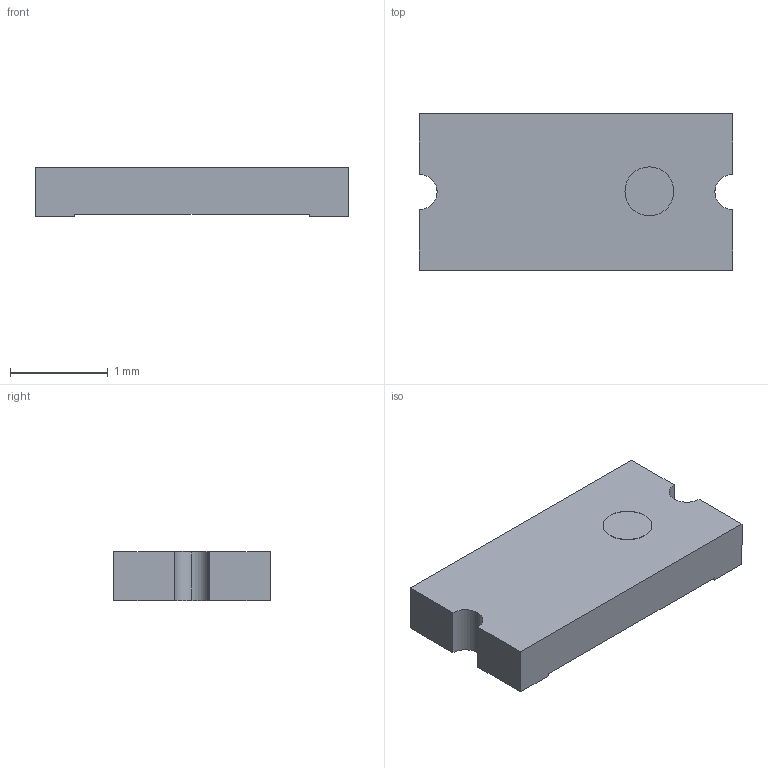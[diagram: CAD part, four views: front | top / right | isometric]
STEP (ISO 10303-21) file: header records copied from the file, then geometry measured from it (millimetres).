
FILE_DESCRIPTION(('STEP AP214'),'1');
FILE_NAME('LK1850201 3DS drawing Rev B.stp','2024-09-09T01:28:59',('Administrator'),(' '),'Spatial InterOp 3D','CST ACIS InterOp Converter 2016',' ');
FILE_SCHEMA(('AUTOMOTIVE_DESIGN { 1 0 10303 214 1 1 1 1 }'));
Length unit declared in the file: millimetre
Products named in the file (1): LK1850201 Rev B|Antenna 3D drawing
Bounding box: 3.2 x 1.6 x 0.51 mm (x, y, z)
Volume: 2.4 mm3; surface area: 15 mm2
Topology: 1 solids, 1 shells, 22 faces, 60 edges, 42 vertices
Faces by surface type: plane 14, cylinder 8
Entity records: 733 total; most frequent: CARTESIAN_POINT 125, DIRECTION 122, ORIENTED_EDGE 120, EDGE_CURVE 60, LINE 44, VECTOR 44, VERTEX_POINT 42, AXIS2_PLACEMENT_3D 39
